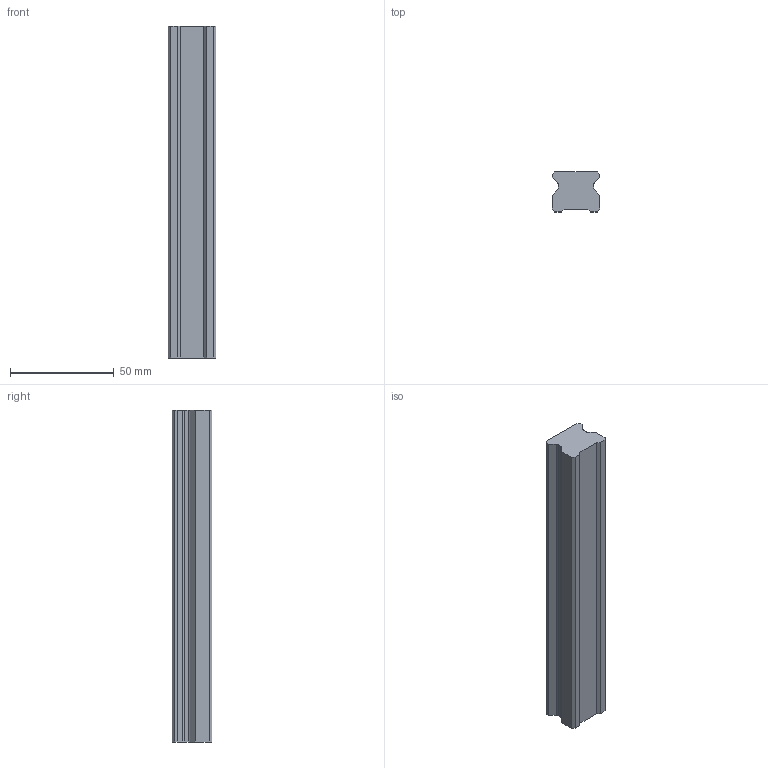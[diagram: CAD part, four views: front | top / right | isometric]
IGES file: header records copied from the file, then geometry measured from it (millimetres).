
Start section: SolidWorks IGES file using analytic representation for surfaces
Global section: file name: C:\Users\IanO\Desktop\L1016_v2\L1016.BL25_v2\L1016.BL25_v2_20160611_IGES\Default.igs; native system: SolidWorks 2017; preprocessor: SolidWorks 2017; author: IanO; date: 190612.130355; units: millimetre
Bounding box: 23 x 19.2 x 160 mm (x, y, z)
Surface area: 14717.1 mm2 (no closed solid volume)
Topology: 0 solids, 0 shells, 26 faces, 168 edges, 168 vertices
Faces by surface type: bspline 22, revolution 4
